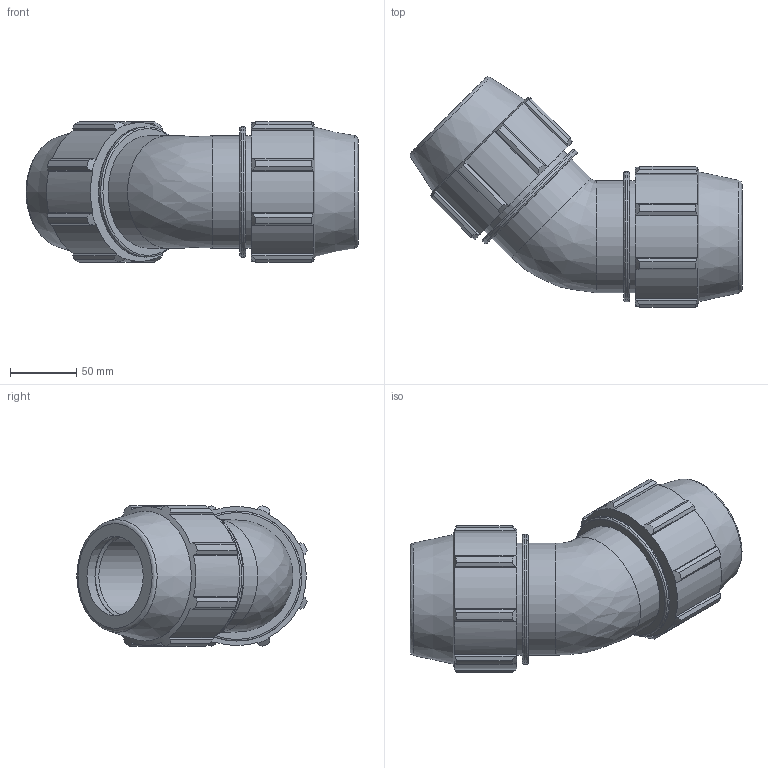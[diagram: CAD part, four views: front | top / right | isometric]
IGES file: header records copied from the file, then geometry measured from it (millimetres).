
Global section: file name: 0706M0020.ipt; native system: Autodesk Inventor 2019; preprocessor: unknown; author: KIM; date: 20210826.124628; units: inch
Bounding box: 250.9 x 174.03 x 106.35 mm (x, y, z)
Volume: 1106074.6 mm3; surface area: 151223.2 mm2
Topology: 1 solids, 1 shells, 146 faces, 417 edges, 281 vertices
Faces by surface type: plane 74, cylinder 38, cone 20, revolution 14
Full cylindrical faces by diameter (mm): 84.772 x4, 98.336 x2
